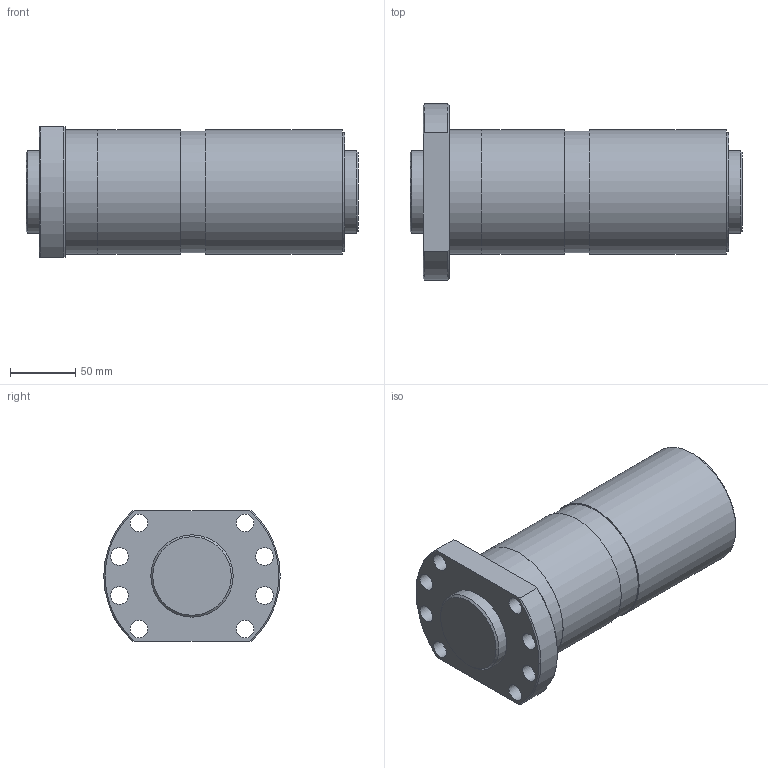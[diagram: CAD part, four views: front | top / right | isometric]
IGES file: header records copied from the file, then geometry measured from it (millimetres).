
Start section: Data from Parasolid IGES Translator 26.0.171, Copyright(c) 2006 Siemens PLM Software. All Rights Reserved.
Global section: file name: SDAN6325VX-4G0+254LC0(0G000).igs; native system: By Siemens PLM Incorporated; preprocessor: XPlus GENERIC/IGES 26.0.171; author: Noname; organization: Noname; date: 20240704.102326; units: millimetre
Bounding box: 254 x 135 x 100 mm (x, y, z)
Surface area: 198451.8 mm2 (no closed solid volume)
Topology: 0 solids, 0 shells, 39 faces, 172 edges, 146 vertices
Faces by surface type: revolution 27, extrusion 12
